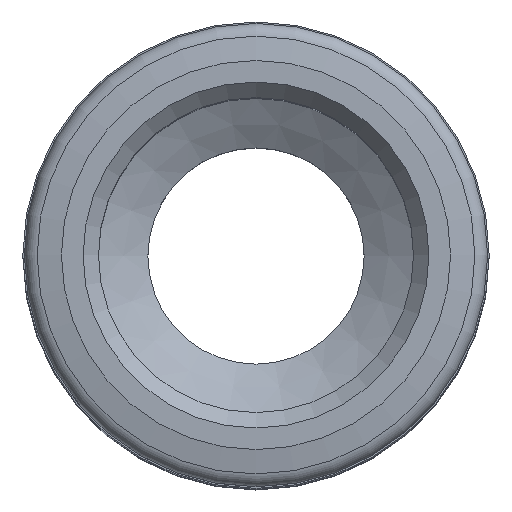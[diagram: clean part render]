
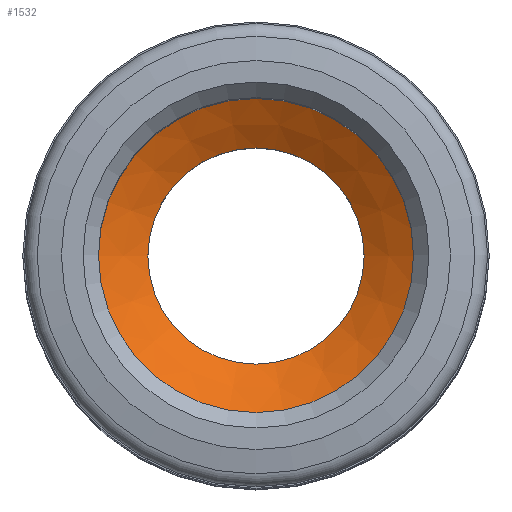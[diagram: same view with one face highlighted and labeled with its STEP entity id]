
A CAD part, top view. The second image highlights one B-rep face of the part: STEP entity #1532.
In plain terms, the highlighted conical face has half-angle 60 degrees and reference radius 5.1 mm.
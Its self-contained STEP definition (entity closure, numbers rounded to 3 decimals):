
#566=CONICAL_SURFACE('',#1414,5.1,60.);
#595=ORIENTED_EDGE('',*,*,#790,.T.);
#596=ORIENTED_EDGE('',*,*,#789,.F.);
#689=CIRCLE('',#1413,5.1);
#690=CIRCLE('',#1415,3.5);
#739=VERTEX_POINT('',#1263);
#740=VERTEX_POINT('',#1266);
#789=EDGE_CURVE('',#739,#739,#689,.T.);
#790=EDGE_CURVE('',#740,#740,#690,.T.);
#845=EDGE_LOOP('',(#595));
#846=EDGE_LOOP('',(#596));
#945=FACE_BOUND('',#845,.F.);
#946=FACE_BOUND('',#846,.F.);
#1057=DIRECTION('',(0.,1.,0.));
#1058=DIRECTION('',(0.,0.,5.1));
#1059=DIRECTION('',(0.,1.,0.));
#1060=DIRECTION('',(-1.,0.,0.));
#1061=DIRECTION('',(0.,1.,0.));
#1062=DIRECTION('',(0.,0.,3.5));
#1263=CARTESIAN_POINT('',(-5.1,-0.726,0.));
#1264=CARTESIAN_POINT('',(0.,-0.726,0.));
#1265=CARTESIAN_POINT('',(0.,-0.726,0.));
#1266=CARTESIAN_POINT('',(-3.5,-1.649,0.));
#1267=CARTESIAN_POINT('',(0.,-1.649,0.));
#1413=AXIS2_PLACEMENT_3D('',#1264,#1057,#1058);
#1414=AXIS2_PLACEMENT_3D('',#1265,#1059,#1060);
#1415=AXIS2_PLACEMENT_3D('',#1267,#1061,#1062);
#1532=ADVANCED_FACE('',(#945,#946),#566,.F.);
